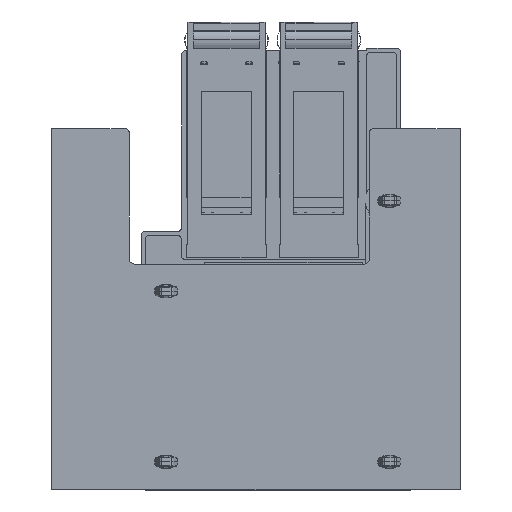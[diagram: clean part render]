
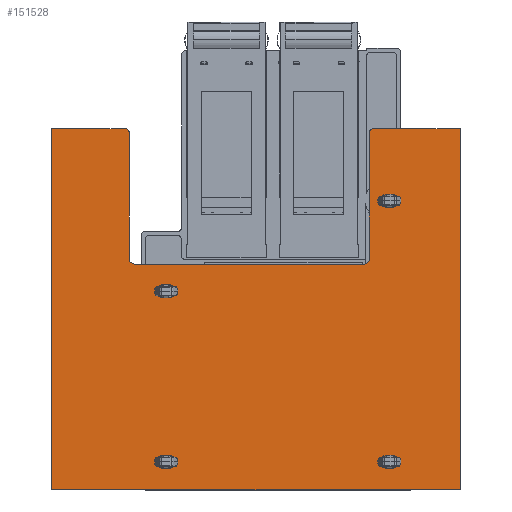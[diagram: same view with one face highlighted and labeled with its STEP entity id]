
A CAD part, front view. The second image highlights one B-rep face of the part: STEP entity #151528.
In plain terms, the highlighted planar face has unit normal (0, -1, 0).
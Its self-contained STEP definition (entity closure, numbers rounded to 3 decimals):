
#150733=DIRECTION('',(-1.,0.,0.));
#150734=VECTOR('',#150733,1.6);
#150735=CARTESIAN_POINT('',(100.2,-2.16,-465.9));
#150736=LINE('',#150735,#150734);
#150740=CARTESIAN_POINT('',(98.6,-2.16,-467.5));
#150741=DIRECTION('',(0.,-1.,0.));
#150742=DIRECTION('',(0.,0.,1.));
#150743=AXIS2_PLACEMENT_3D('',#150740,#150741,#150742);
#150748=DIRECTION('',(1.,0.,0.));
#150749=VECTOR('',#150748,1.6);
#150750=CARTESIAN_POINT('',(98.6,-2.16,-469.1));
#150751=LINE('',#150750,#150749);
#150755=CARTESIAN_POINT('',(100.2,-2.16,-467.5));
#150756=DIRECTION('',(0.,-1.,0.));
#150757=DIRECTION('',(0.,0.,-1.));
#150758=AXIS2_PLACEMENT_3D('',#150755,#150756,#150757);
#150763=DIRECTION('',(1.,0.,0.));
#150764=VECTOR('',#150763,1.6);
#150765=CARTESIAN_POINT('',(98.6,-2.16,-423.4));
#150766=LINE('',#150765,#150764);
#150770=CARTESIAN_POINT('',(98.6,-2.16,-425.));
#150771=DIRECTION('',(0.,1.,0.));
#150772=DIRECTION('',(0.,0.,-1.));
#150773=AXIS2_PLACEMENT_3D('',#150770,#150771,#150772);
#150778=DIRECTION('',(-1.,0.,0.));
#150779=VECTOR('',#150778,1.6);
#150780=CARTESIAN_POINT('',(100.2,-2.16,-426.6));
#150781=LINE('',#150780,#150779);
#150785=CARTESIAN_POINT('',(100.2,-2.16,-425.));
#150786=DIRECTION('',(0.,1.,0.));
#150787=DIRECTION('',(0.,0.,1.));
#150788=AXIS2_PLACEMENT_3D('',#150785,#150786,#150787);
#150793=CARTESIAN_POINT('',(44.6,-2.16,-425.));
#150794=DIRECTION('',(0.,1.,0.));
#150795=DIRECTION('',(0.,0.,1.));
#150796=AXIS2_PLACEMENT_3D('',#150793,#150794,#150795);
#150801=DIRECTION('',(1.,0.,0.));
#150802=VECTOR('',#150801,1.6);
#150803=CARTESIAN_POINT('',(43.,-2.16,-423.4));
#150804=LINE('',#150803,#150802);
#150808=CARTESIAN_POINT('',(43.,-2.16,-425.));
#150809=DIRECTION('',(0.,1.,0.));
#150810=DIRECTION('',(0.,0.,-1.));
#150811=AXIS2_PLACEMENT_3D('',#150808,#150809,#150810);
#150816=DIRECTION('',(-1.,0.,0.));
#150817=VECTOR('',#150816,1.6);
#150818=CARTESIAN_POINT('',(44.6,-2.16,-426.6));
#150819=LINE('',#150818,#150817);
#150823=CARTESIAN_POINT('',(44.6,-2.16,-490.));
#150824=DIRECTION('',(0.,1.,0.));
#150825=DIRECTION('',(0.,0.,1.));
#150826=AXIS2_PLACEMENT_3D('',#150823,#150824,#150825);
#150831=DIRECTION('',(1.,0.,0.));
#150832=VECTOR('',#150831,1.6);
#150833=CARTESIAN_POINT('',(43.,-2.16,-488.4));
#150834=LINE('',#150833,#150832);
#150838=CARTESIAN_POINT('',(43.,-2.16,-490.));
#150839=DIRECTION('',(0.,1.,0.));
#150840=DIRECTION('',(0.,0.,-1.));
#150841=AXIS2_PLACEMENT_3D('',#150838,#150839,#150840);
#150846=DIRECTION('',(-1.,0.,0.));
#150847=VECTOR('',#150846,1.6);
#150848=CARTESIAN_POINT('',(44.6,-2.16,-491.6));
#150849=LINE('',#150848,#150847);
#150853=CARTESIAN_POINT('',(47.77,-2.16,-507.));
#150854=DIRECTION('',(0.,-1.,0.));
#150855=DIRECTION('',(0.,0.,-1.));
#150856=AXIS2_PLACEMENT_3D('',#150853,#150854,#150855);
#150861=DIRECTION('',(1.,0.,0.));
#150862=VECTOR('',#150861,18.25);
#150863=CARTESIAN_POINT('',(109.62,-2.16,-508.));
#150864=LINE('',#150863,#150862);
#150868=CARTESIAN_POINT('',(109.62,-2.16,-507.));
#150869=DIRECTION('',(0.,-1.,0.));
#150870=DIRECTION('',(-1.,0.,0.));
#150871=AXIS2_PLACEMENT_3D('',#150868,#150869,#150870);
#150876=DIRECTION('',(0.,0.,1.));
#150877=VECTOR('',#150876,31.27);
#150878=CARTESIAN_POINT('',(108.62,-2.16,-507.));
#150879=LINE('',#150878,#150877);
#151159=DIRECTION('',(0.,0.,1.));
#151160=VECTOR('',#151159,31.27);
#151161=CARTESIAN_POINT('',(48.77,-2.16,-507.));
#151162=LINE('',#151161,#151160);
#151166=CARTESIAN_POINT('',(50.27,-2.16,-475.73));
#151167=DIRECTION('',(0.,1.,0.));
#151168=DIRECTION('',(-1.,0.,0.));
#151169=AXIS2_PLACEMENT_3D('',#151166,#151167,#151168);
#151203=DIRECTION('',(1.,0.,0.));
#151204=VECTOR('',#151203,56.85);
#151205=CARTESIAN_POINT('',(50.27,-2.16,-474.23));
#151206=LINE('',#151205,#151204);
#151210=CARTESIAN_POINT('',(107.12,-2.16,-475.73));
#151211=DIRECTION('',(0.,1.,0.));
#151212=DIRECTION('',(0.,0.,1.));
#151213=AXIS2_PLACEMENT_3D('',#151210,#151211,#151212);
#151275=DIRECTION('',(0.,0.,-1.));
#151276=VECTOR('',#151275,90.);
#151277=CARTESIAN_POINT('',(127.87,-2.16,-418.));
#151278=LINE('',#151277,#151276);
#151282=DIRECTION('',(1.,0.,0.));
#151283=VECTOR('',#151282,101.72);
#151284=CARTESIAN_POINT('',(26.15,-2.16,-418.));
#151285=LINE('',#151284,#151283);
#151303=DIRECTION('',(0.,0.,1.));
#151304=VECTOR('',#151303,90.);
#151305=CARTESIAN_POINT('',(26.15,-2.16,-508.));
#151306=LINE('',#151305,#151304);
#151324=DIRECTION('',(1.,0.,0.));
#151325=VECTOR('',#151324,21.62);
#151326=CARTESIAN_POINT('',(26.15,-2.16,-508.));
#151327=LINE('',#151326,#151325);
#151345=CARTESIAN_POINT('',(26.15,-2.16,-418.));
#151346=CARTESIAN_POINT('',(127.87,-2.16,-418.));
#151347=VERTEX_POINT('',#151345);
#151348=VERTEX_POINT('',#151346);
#151349=CARTESIAN_POINT('',(26.15,-2.16,-508.));
#151350=VERTEX_POINT('',#151349);
#151351=CARTESIAN_POINT('',(43.,-2.16,-423.4));
#151352=CARTESIAN_POINT('',(44.6,-2.16,-423.4));
#151353=VERTEX_POINT('',#151351);
#151354=VERTEX_POINT('',#151352);
#151355=CARTESIAN_POINT('',(43.,-2.16,-488.4));
#151356=CARTESIAN_POINT('',(44.6,-2.16,-488.4));
#151357=VERTEX_POINT('',#151355);
#151358=VERTEX_POINT('',#151356);
#151365=CARTESIAN_POINT('',(43.,-2.16,-426.6));
#151367=VERTEX_POINT('',#151365);
#151369=CARTESIAN_POINT('',(44.6,-2.16,-426.6));
#151370=VERTEX_POINT('',#151369);
#151375=CARTESIAN_POINT('',(43.,-2.16,-491.6));
#151377=VERTEX_POINT('',#151375);
#151381=CARTESIAN_POINT('',(44.6,-2.16,-491.6));
#151382=VERTEX_POINT('',#151381);
#151383=CARTESIAN_POINT('',(127.87,-2.16,-508.));
#151384=VERTEX_POINT('',#151383);
#151393=CARTESIAN_POINT('',(47.77,-2.16,-508.));
#151394=VERTEX_POINT('',#151393);
#151399=CARTESIAN_POINT('',(48.77,-2.16,-507.));
#151400=VERTEX_POINT('',#151399);
#151405=CARTESIAN_POINT('',(108.62,-2.16,-507.));
#151406=VERTEX_POINT('',#151405);
#151407=CARTESIAN_POINT('',(109.62,-2.16,-508.));
#151408=VERTEX_POINT('',#151407);
#151409=CARTESIAN_POINT('',(107.12,-2.16,-474.23));
#151411=VERTEX_POINT('',#151409);
#151413=CARTESIAN_POINT('',(108.62,-2.16,-475.73));
#151415=VERTEX_POINT('',#151413);
#151417=CARTESIAN_POINT('',(48.77,-2.16,-475.73));
#151419=VERTEX_POINT('',#151417);
#151421=CARTESIAN_POINT('',(50.27,-2.16,-474.23));
#151423=VERTEX_POINT('',#151421);
#151433=CARTESIAN_POINT('',(98.6,-2.16,-423.4));
#151434=CARTESIAN_POINT('',(100.2,-2.16,-423.4));
#151435=VERTEX_POINT('',#151433);
#151436=VERTEX_POINT('',#151434);
#151437=CARTESIAN_POINT('',(98.6,-2.16,-426.6));
#151438=VERTEX_POINT('',#151437);
#151439=CARTESIAN_POINT('',(100.2,-2.16,-426.6));
#151440=VERTEX_POINT('',#151439);
#151449=CARTESIAN_POINT('',(100.2,-2.16,-465.9));
#151450=CARTESIAN_POINT('',(98.6,-2.16,-465.9));
#151451=VERTEX_POINT('',#151449);
#151452=VERTEX_POINT('',#151450);
#151453=CARTESIAN_POINT('',(98.6,-2.16,-469.1));
#151454=VERTEX_POINT('',#151453);
#151455=CARTESIAN_POINT('',(100.2,-2.16,-469.1));
#151456=VERTEX_POINT('',#151455);
#151457=CARTESIAN_POINT('',(0.,-2.16,0.));
#151458=DIRECTION('',(0.,1.,0.));
#151459=DIRECTION('',(0.,0.,1.));
#151460=AXIS2_PLACEMENT_3D('',#151457,#151458,#151459);
#151461=PLANE('',#151460);
#151463=ORIENTED_EDGE('',*,*,#151462,.F.);
#151465=ORIENTED_EDGE('',*,*,#151464,.F.);
#151467=ORIENTED_EDGE('',*,*,#151466,.F.);
#151469=ORIENTED_EDGE('',*,*,#151468,.F.);
#151471=ORIENTED_EDGE('',*,*,#151470,.F.);
#151473=ORIENTED_EDGE('',*,*,#151472,.T.);
#151475=ORIENTED_EDGE('',*,*,#151474,.T.);
#151477=ORIENTED_EDGE('',*,*,#151476,.T.);
#151479=ORIENTED_EDGE('',*,*,#151478,.F.);
#151481=ORIENTED_EDGE('',*,*,#151480,.F.);
#151483=ORIENTED_EDGE('',*,*,#151482,.T.);
#151485=ORIENTED_EDGE('',*,*,#151484,.F.);
#151486=EDGE_LOOP('',(#151463,#151465,#151467,#151469,#151471,#151473,#151475,
#151477,#151479,#151481,#151483,#151485));
#151487=FACE_OUTER_BOUND('',#151486,.F.);
#151489=ORIENTED_EDGE('',*,*,#151488,.F.);
#151491=ORIENTED_EDGE('',*,*,#151490,.F.);
#151493=ORIENTED_EDGE('',*,*,#151492,.F.);
#151495=ORIENTED_EDGE('',*,*,#151494,.F.);
#151496=EDGE_LOOP('',(#151489,#151491,#151493,#151495));
#151497=FACE_BOUND('',#151496,.F.);
#151499=ORIENTED_EDGE('',*,*,#151498,.F.);
#151501=ORIENTED_EDGE('',*,*,#151500,.F.);
#151503=ORIENTED_EDGE('',*,*,#151502,.F.);
#151505=ORIENTED_EDGE('',*,*,#151504,.F.);
#151506=EDGE_LOOP('',(#151499,#151501,#151503,#151505));
#151507=FACE_BOUND('',#151506,.F.);
#151509=ORIENTED_EDGE('',*,*,#151508,.F.);
#151511=ORIENTED_EDGE('',*,*,#151510,.F.);
#151513=ORIENTED_EDGE('',*,*,#151512,.F.);
#151515=ORIENTED_EDGE('',*,*,#151514,.F.);
#151516=EDGE_LOOP('',(#151509,#151511,#151513,#151515));
#151517=FACE_BOUND('',#151516,.F.);
#151519=ORIENTED_EDGE('',*,*,#151518,.T.);
#151521=ORIENTED_EDGE('',*,*,#151520,.T.);
#151523=ORIENTED_EDGE('',*,*,#151522,.T.);
#151525=ORIENTED_EDGE('',*,*,#151524,.T.);
#151526=EDGE_LOOP('',(#151519,#151521,#151523,#151525));
#151527=FACE_BOUND('',#151526,.F.);
#150744=CIRCLE('',#150743,1.6);
#150759=CIRCLE('',#150758,1.6);
#150774=CIRCLE('',#150773,1.6);
#150789=CIRCLE('',#150788,1.6);
#150797=CIRCLE('',#150796,1.6);
#150812=CIRCLE('',#150811,1.6);
#150827=CIRCLE('',#150826,1.6);
#150842=CIRCLE('',#150841,1.6);
#150857=CIRCLE('',#150856,1.);
#150872=CIRCLE('',#150871,1.);
#151170=CIRCLE('',#151169,1.5);
#151214=CIRCLE('',#151213,1.5);
#151462=EDGE_CURVE('',#151423,#151411,#151206,.T.);
#151464=EDGE_CURVE('',#151419,#151423,#151170,.T.);
#151466=EDGE_CURVE('',#151400,#151419,#151162,.T.);
#151468=EDGE_CURVE('',#151394,#151400,#150857,.T.);
#151470=EDGE_CURVE('',#151350,#151394,#151327,.T.);
#151472=EDGE_CURVE('',#151350,#151347,#151306,.T.);
#151474=EDGE_CURVE('',#151347,#151348,#151285,.T.);
#151476=EDGE_CURVE('',#151348,#151384,#151278,.T.);
#151478=EDGE_CURVE('',#151408,#151384,#150864,.T.);
#151480=EDGE_CURVE('',#151406,#151408,#150872,.T.);
#151482=EDGE_CURVE('',#151406,#151415,#150879,.T.);
#151484=EDGE_CURVE('',#151411,#151415,#151214,.T.);
#151488=EDGE_CURVE('',#151435,#151436,#150766,.T.);
#151490=EDGE_CURVE('',#151438,#151435,#150774,.T.);
#151492=EDGE_CURVE('',#151440,#151438,#150781,.T.);
#151494=EDGE_CURVE('',#151436,#151440,#150789,.T.);
#151498=EDGE_CURVE('',#151354,#151370,#150797,.T.);
#151500=EDGE_CURVE('',#151353,#151354,#150804,.T.);
#151502=EDGE_CURVE('',#151367,#151353,#150812,.T.);
#151504=EDGE_CURVE('',#151370,#151367,#150819,.T.);
#151508=EDGE_CURVE('',#151358,#151382,#150827,.T.);
#151510=EDGE_CURVE('',#151357,#151358,#150834,.T.);
#151512=EDGE_CURVE('',#151377,#151357,#150842,.T.);
#151514=EDGE_CURVE('',#151382,#151377,#150849,.T.);
#151518=EDGE_CURVE('',#151451,#151452,#150736,.T.);
#151520=EDGE_CURVE('',#151452,#151454,#150744,.T.);
#151522=EDGE_CURVE('',#151454,#151456,#150751,.T.);
#151524=EDGE_CURVE('',#151456,#151451,#150759,.T.);
#151528=ADVANCED_FACE('',(#151487,#151497,#151507,#151517,#151527),#151461,.F.);
